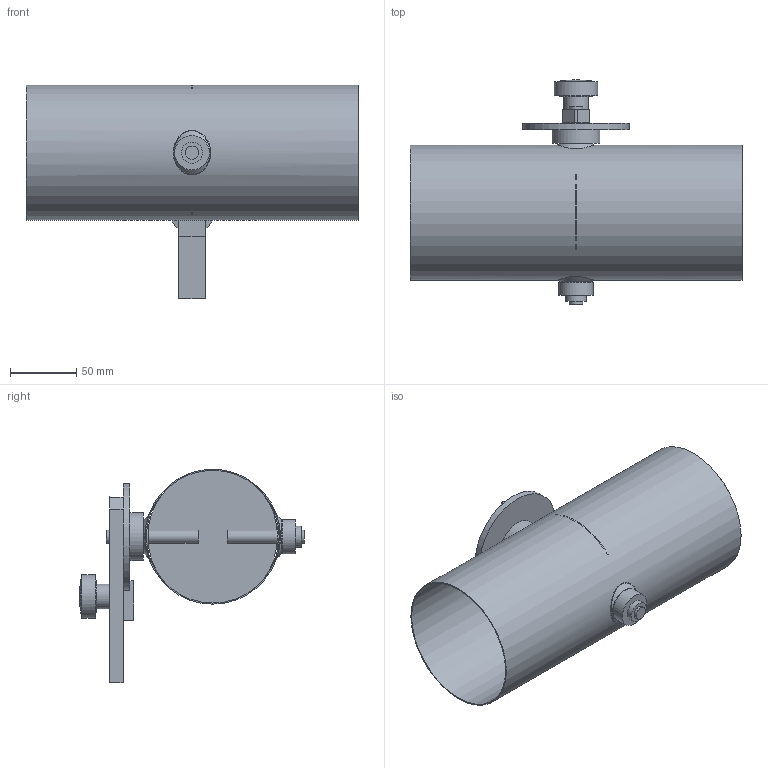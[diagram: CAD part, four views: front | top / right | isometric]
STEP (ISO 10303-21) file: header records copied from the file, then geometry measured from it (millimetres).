
FILE_DESCRIPTION(/* description */ (''),/* implementation_level */ '2;1');
FILE_NAME(/* name */ '',/* time_stamp */ '2023-03-10T15:18:03+01:00',/* author */ (''),/* organization */ (''),/* preprocessor_version */ 'ST-DEVELOPER v11',/* originating_system */ 'SIEMENS UGS NX 6.0',/* authorisation */ '');
FILE_SCHEMA (('CONFIG_CONTROL_DESIGN'));
Length unit declared in the file: millimetre
Products named in the file (1): d.ga8B38arqq
Bounding box: 250 x 169.17 x 160.8 mm (x, y, z)
Volume: 165608.8 mm3; surface area: 214048.4 mm2
Topology: 12 solids, 12 shells, 90 faces, 184 edges, 127 vertices
Faces by surface type: plane 44, cylinder 32, cone 4, bspline 4, torus 4, sphere 2
Full cylindrical faces by diameter (mm): 4.2 x1, 4.4 x4, 5 x1, 6 x1, 10 x5, 15 x3, 15.85 x2, 16.2 x2, 18.5 x1, 24 x2, 25 x1, 26 x1, 32.5 x1, 36 x1, 80 x1, 100 x1, 101.6 x1
Entity records: 2772 total; most frequent: CARTESIAN_POINT 989, DIRECTION 360, ORIENTED_EDGE 244, EDGE_LOOP 170, AXIS2_PLACEMENT_3D 159, FACE_BOUND 148, EDGE_CURVE 122, VERTEX_POINT 106
